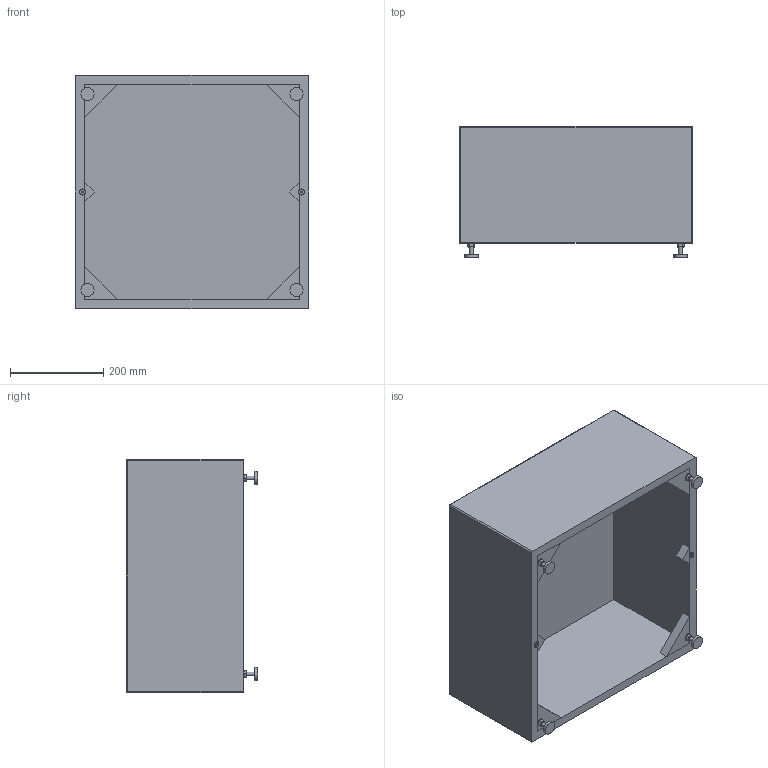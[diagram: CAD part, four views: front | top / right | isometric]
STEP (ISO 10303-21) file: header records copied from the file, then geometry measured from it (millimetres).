
FILE_DESCRIPTION(/* description */ ('Module'),/* implementation_level */ '2;1');
FILE_NAME(/* name */ 'C:\Users\cadcraft\AppData\Local\Temp\lmvmgg1x.5ny\102008_A.stp',/* time_stamp */ '2021-11-17T10:14:48+01:00',/* author */ ('Torbjörn'),/* organization */ (''),/* preprocessor_version */ 'ST-DEVELOPER v18.1',/* originating_system */ 'Autodesk Inventor 2021',/* authorisation */ '');
FILE_SCHEMA (('CONFIG_CONTROL_DESIGN'));
Length unit declared in the file: millimetre
Products named in the file (6): 102008; 102006; Rivet Nut Wood M5; Rivet Nut Wood M8; 100288; ISO 4032 - M8
Assembly tree (15 placements, depth 2):
  102008
    102006
    Rivet Nut Wood M8  x4
    Rivet Nut Wood M5  x2
    100288  x4
    ISO 4032 - M8  x4
Bounding box: 500 x 281 x 500 mm (x, y, z)
Volume: 14063567.3 mm3; surface area: 1488282.8 mm2
Topology: 21 solids, 21 shells, 175 faces, 382 edges, 260 vertices
Faces by surface type: plane 103, cylinder 44, cone 24, sphere 4
Full cylindrical faces by diameter (mm): 4.134 x2, 6.647 x8, 8 x4, 8.1 x2, 8.3 x2, 11.1 x4, 11.3 x4, 13 x2, 16 x4, 28 x4
Entity records: 2892 total; most frequent: DIRECTION 493, CARTESIAN_POINT 477, ORIENTED_EDGE 404, EDGE_CURVE 202, AXIS2_PLACEMENT_3D 189, VERTEX_POINT 137, LINE 115, VECTOR 115
